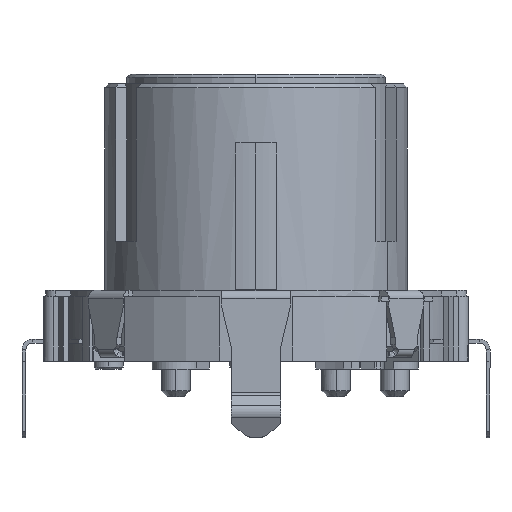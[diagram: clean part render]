
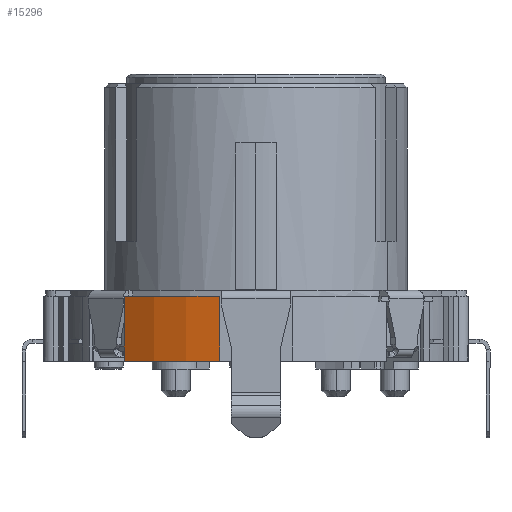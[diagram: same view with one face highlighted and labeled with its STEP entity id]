
A CAD part, left-side view. The second image highlights one B-rep face of the part: STEP entity #15296.
In plain terms, the highlighted cylindrical face has radius 10.8 mm (diameter 21.6 mm), a partial arc.
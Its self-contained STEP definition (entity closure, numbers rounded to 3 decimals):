
#52 = DIRECTION ( 'NONE',  ( 1., 0., 0. ) ) ;
#1035 = LINE ( 'NONE', #3685, #18682 ) ;
#1331 = CARTESIAN_POINT ( 'NONE',  ( -10.64, 1.85, 3.7 ) ) ;
#1481 = DIRECTION ( 'NONE',  ( 0., 0., -1. ) ) ;
#2104 = VERTEX_POINT ( 'NONE', #4770 ) ;
#3685 = CARTESIAN_POINT ( 'NONE',  ( -10.64, 1.85, 0.4 ) ) ;
#4321 = VERTEX_POINT ( 'NONE', #24452 ) ;
#4770 = CARTESIAN_POINT ( 'NONE',  ( -8.477, 6.692, 0.4 ) ) ;
#6171 = EDGE_CURVE ( 'NONE', #2104, #4321, #27382, .T. ) ;
#8201 = ORIENTED_EDGE ( 'NONE', *, *, #10277, .F. ) ;
#8531 = AXIS2_PLACEMENT_3D ( 'NONE', #27527, #13835, #52 ) ;
#8819 = VERTEX_POINT ( 'NONE', #10541 ) ;
#9395 = AXIS2_PLACEMENT_3D ( 'NONE', #13137, #29153, #15465 ) ;
#10277 = EDGE_CURVE ( 'NONE', #22415, #4321, #1035, .T. ) ;
#10541 = CARTESIAN_POINT ( 'NONE',  ( -8.477, 6.692, 3.7 ) ) ;
#11775 = EDGE_CURVE ( 'NONE', #8819, #22415, #18525, .T. ) ;
#13137 = CARTESIAN_POINT ( 'NONE',  ( 0., 0., 0.4 ) ) ;
#13835 = DIRECTION ( 'NONE',  ( 0., 0., 1. ) ) ;
#15296 = ADVANCED_FACE ( 'NONE', ( #16136 ), #19389, .T. ) ;
#15465 = DIRECTION ( 'NONE',  ( 1., 0., 0. ) ) ;
#16136 = FACE_OUTER_BOUND ( 'NONE', #19126, .T. ) ;
#17510 = DIRECTION ( 'NONE',  ( 0., 0., -1. ) ) ;
#17525 = LINE ( 'NONE', #28978, #23632 ) ;
#17982 = AXIS2_PLACEMENT_3D ( 'NONE', #23572, #25836, #21336 ) ;
#18525 = CIRCLE ( 'NONE', #8531, 10.8 ) ;
#18682 = VECTOR ( 'NONE', #17510, 1000. ) ;
#19126 = EDGE_LOOP ( 'NONE', ( #19644, #21076, #8201, #25124 ) ) ;
#19389 = CYLINDRICAL_SURFACE ( 'NONE', #17982, 10.8 ) ;
#19644 = ORIENTED_EDGE ( 'NONE', *, *, #24763, .T. ) ;
#21076 = ORIENTED_EDGE ( 'NONE', *, *, #6171, .T. ) ;
#21336 = DIRECTION ( 'NONE',  ( -1., 0., 0. ) ) ;
#22415 = VERTEX_POINT ( 'NONE', #1331 ) ;
#23572 = CARTESIAN_POINT ( 'NONE',  ( 0., 0., 0.4 ) ) ;
#23632 = VECTOR ( 'NONE', #1481, 1000. ) ;
#24452 = CARTESIAN_POINT ( 'NONE',  ( -10.64, 1.85, 0.4 ) ) ;
#24763 = EDGE_CURVE ( 'NONE', #8819, #2104, #17525, .T. ) ;
#25124 = ORIENTED_EDGE ( 'NONE', *, *, #11775, .F. ) ;
#25836 = DIRECTION ( 'NONE',  ( 0., 0., -1. ) ) ;
#27382 = CIRCLE ( 'NONE', #9395, 10.8 ) ;
#27527 = CARTESIAN_POINT ( 'NONE',  ( 0., 0., 3.7 ) ) ;
#28978 = CARTESIAN_POINT ( 'NONE',  ( -8.477, 6.692, 0.4 ) ) ;
#29153 = DIRECTION ( 'NONE',  ( 0., 0., 1. ) ) ;
